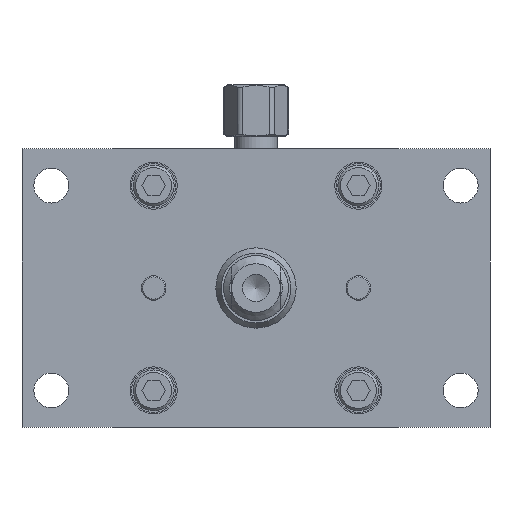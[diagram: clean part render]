
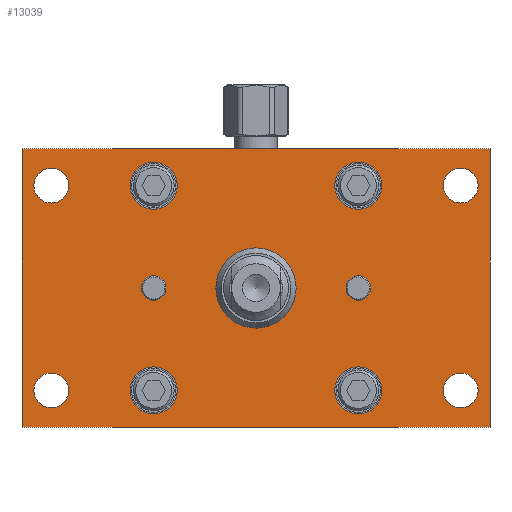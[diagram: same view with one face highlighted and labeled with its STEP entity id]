
A CAD part, front view. The second image highlights one B-rep face of the part: STEP entity #13039.
In plain terms, the highlighted planar face has unit normal (0, -1, 0) as drawn and (0, 0, -1) by its records, which use the part's own axes.
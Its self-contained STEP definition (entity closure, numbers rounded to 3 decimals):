
#308=FACE_BOUND('',#5404,.T.);
#309=FACE_BOUND('',#5405,.T.);
#310=FACE_BOUND('',#5406,.T.);
#311=FACE_BOUND('',#5407,.T.);
#312=FACE_BOUND('',#5408,.T.);
#313=FACE_BOUND('',#5409,.T.);
#314=FACE_BOUND('',#5410,.T.);
#315=FACE_BOUND('',#5411,.T.);
#316=FACE_BOUND('',#5412,.T.);
#317=FACE_BOUND('',#5413,.T.);
#318=FACE_BOUND('',#5414,.T.);
#1177=PLANE('',#14562);
#2305=LINE('',#22049,#3517);
#2308=LINE('',#22054,#3520);
#2310=LINE('',#22058,#3522);
#2312=LINE('',#22061,#3524);
#3517=VECTOR('',#18120,10.);
#3520=VECTOR('',#18125,10.);
#3522=VECTOR('',#18129,10.);
#3524=VECTOR('',#18133,10.);
#4504=FACE_OUTER_BOUND('',#5403,.T.);
#5403=EDGE_LOOP('',(#11619,#11620,#11621,#11622));
#5404=EDGE_LOOP('',(#11623));
#5405=EDGE_LOOP('',(#11624,#11625));
#5406=EDGE_LOOP('',(#11626,#11627));
#5407=EDGE_LOOP('',(#11628,#11629));
#5408=EDGE_LOOP('',(#11630,#11631));
#5409=EDGE_LOOP('',(#11632,#11633));
#5410=EDGE_LOOP('',(#11634,#11635));
#5411=EDGE_LOOP('',(#11636,#11637));
#5412=EDGE_LOOP('',(#11638,#11639));
#5413=EDGE_LOOP('',(#11640,#11641));
#5414=EDGE_LOOP('',(#11642,#11643));
#5731=CIRCLE('',#14452,9.804);
#5768=CIRCLE('',#14503,3.);
#5769=CIRCLE('',#14504,3.);
#5770=CIRCLE('',#14506,3.);
#5771=CIRCLE('',#14507,3.);
#5772=CIRCLE('',#14509,4.25);
#5773=CIRCLE('',#14510,4.25);
#5774=CIRCLE('',#14512,4.25);
#5775=CIRCLE('',#14513,4.25);
#5776=CIRCLE('',#14515,4.25);
#5777=CIRCLE('',#14516,4.25);
#5778=CIRCLE('',#14518,4.25);
#5779=CIRCLE('',#14519,4.25);
#5785=CIRCLE('',#14530,5.75);
#5786=CIRCLE('',#14531,5.75);
#5790=CIRCLE('',#14538,5.75);
#5791=CIRCLE('',#14539,5.75);
#5795=CIRCLE('',#14546,5.75);
#5796=CIRCLE('',#14547,5.75);
#5800=CIRCLE('',#14554,5.75);
#5801=CIRCLE('',#14555,5.75);
#6652=VERTEX_POINT('',#21842);
#6691=VERTEX_POINT('',#21942);
#6692=VERTEX_POINT('',#21943);
#6693=VERTEX_POINT('',#21948);
#6694=VERTEX_POINT('',#21949);
#6695=VERTEX_POINT('',#21954);
#6696=VERTEX_POINT('',#21955);
#6697=VERTEX_POINT('',#21960);
#6698=VERTEX_POINT('',#21961);
#6699=VERTEX_POINT('',#21966);
#6700=VERTEX_POINT('',#21967);
#6701=VERTEX_POINT('',#21972);
#6702=VERTEX_POINT('',#21973);
#6708=VERTEX_POINT('',#21994);
#6709=VERTEX_POINT('',#21995);
#6713=VERTEX_POINT('',#22009);
#6714=VERTEX_POINT('',#22010);
#6718=VERTEX_POINT('',#22024);
#6719=VERTEX_POINT('',#22025);
#6723=VERTEX_POINT('',#22039);
#6724=VERTEX_POINT('',#22040);
#6725=VERTEX_POINT('',#22047);
#6726=VERTEX_POINT('',#22048);
#6727=VERTEX_POINT('',#22053);
#6728=VERTEX_POINT('',#22057);
#8315=EDGE_CURVE('',#6652,#6652,#5731,.T.);
#8362=EDGE_CURVE('',#6691,#6692,#5768,.T.);
#8363=EDGE_CURVE('',#6692,#6691,#5769,.T.);
#8365=EDGE_CURVE('',#6693,#6694,#5770,.T.);
#8366=EDGE_CURVE('',#6694,#6693,#5771,.T.);
#8368=EDGE_CURVE('',#6695,#6696,#5772,.T.);
#8369=EDGE_CURVE('',#6696,#6695,#5773,.T.);
#8371=EDGE_CURVE('',#6697,#6698,#5774,.T.);
#8372=EDGE_CURVE('',#6698,#6697,#5775,.T.);
#8374=EDGE_CURVE('',#6699,#6700,#5776,.T.);
#8375=EDGE_CURVE('',#6700,#6699,#5777,.T.);
#8377=EDGE_CURVE('',#6701,#6702,#5778,.T.);
#8378=EDGE_CURVE('',#6702,#6701,#5779,.T.);
#8387=EDGE_CURVE('',#6708,#6709,#5785,.T.);
#8388=EDGE_CURVE('',#6709,#6708,#5786,.T.);
#8394=EDGE_CURVE('',#6713,#6714,#5790,.T.);
#8395=EDGE_CURVE('',#6714,#6713,#5791,.T.);
#8401=EDGE_CURVE('',#6718,#6719,#5795,.T.);
#8402=EDGE_CURVE('',#6719,#6718,#5796,.T.);
#8408=EDGE_CURVE('',#6723,#6724,#5800,.T.);
#8409=EDGE_CURVE('',#6724,#6723,#5801,.T.);
#8412=EDGE_CURVE('',#6725,#6726,#2305,.T.);
#8415=EDGE_CURVE('',#6727,#6725,#2308,.T.);
#8417=EDGE_CURVE('',#6728,#6727,#2310,.T.);
#8419=EDGE_CURVE('',#6726,#6728,#2312,.T.);
#11619=ORIENTED_EDGE('',*,*,#8419,.F.);
#11620=ORIENTED_EDGE('',*,*,#8412,.F.);
#11621=ORIENTED_EDGE('',*,*,#8415,.F.);
#11622=ORIENTED_EDGE('',*,*,#8417,.F.);
#11623=ORIENTED_EDGE('',*,*,#8315,.T.);
#11624=ORIENTED_EDGE('',*,*,#8362,.T.);
#11625=ORIENTED_EDGE('',*,*,#8363,.T.);
#11626=ORIENTED_EDGE('',*,*,#8365,.T.);
#11627=ORIENTED_EDGE('',*,*,#8366,.T.);
#11628=ORIENTED_EDGE('',*,*,#8368,.T.);
#11629=ORIENTED_EDGE('',*,*,#8369,.T.);
#11630=ORIENTED_EDGE('',*,*,#8371,.T.);
#11631=ORIENTED_EDGE('',*,*,#8372,.T.);
#11632=ORIENTED_EDGE('',*,*,#8374,.T.);
#11633=ORIENTED_EDGE('',*,*,#8375,.T.);
#11634=ORIENTED_EDGE('',*,*,#8377,.T.);
#11635=ORIENTED_EDGE('',*,*,#8378,.T.);
#11636=ORIENTED_EDGE('',*,*,#8387,.T.);
#11637=ORIENTED_EDGE('',*,*,#8388,.T.);
#11638=ORIENTED_EDGE('',*,*,#8394,.T.);
#11639=ORIENTED_EDGE('',*,*,#8395,.T.);
#11640=ORIENTED_EDGE('',*,*,#8401,.T.);
#11641=ORIENTED_EDGE('',*,*,#8402,.T.);
#11642=ORIENTED_EDGE('',*,*,#8408,.T.);
#11643=ORIENTED_EDGE('',*,*,#8409,.T.);
#13039=ADVANCED_FACE('',(#4504,#308,#309,#310,#311,#312,#313,#314,#315,
#316,#317,#318),#1177,.F.);
#14452=AXIS2_PLACEMENT_3D('',#21843,#17882,#17883);
#14503=AXIS2_PLACEMENT_3D('',#21944,#17994,#17995);
#14504=AXIS2_PLACEMENT_3D('',#21945,#17996,#17997);
#14506=AXIS2_PLACEMENT_3D('',#21950,#18001,#18002);
#14507=AXIS2_PLACEMENT_3D('',#21951,#18003,#18004);
#14509=AXIS2_PLACEMENT_3D('',#21956,#18008,#18009);
#14510=AXIS2_PLACEMENT_3D('',#21957,#18010,#18011);
#14512=AXIS2_PLACEMENT_3D('',#21962,#18015,#18016);
#14513=AXIS2_PLACEMENT_3D('',#21963,#18017,#18018);
#14515=AXIS2_PLACEMENT_3D('',#21968,#18022,#18023);
#14516=AXIS2_PLACEMENT_3D('',#21969,#18024,#18025);
#14518=AXIS2_PLACEMENT_3D('',#21974,#18029,#18030);
#14519=AXIS2_PLACEMENT_3D('',#21975,#18031,#18032);
#14530=AXIS2_PLACEMENT_3D('',#21996,#18056,#18057);
#14531=AXIS2_PLACEMENT_3D('',#21997,#18058,#18059);
#14538=AXIS2_PLACEMENT_3D('',#22011,#18074,#18075);
#14539=AXIS2_PLACEMENT_3D('',#22012,#18076,#18077);
#14546=AXIS2_PLACEMENT_3D('',#22026,#18092,#18093);
#14547=AXIS2_PLACEMENT_3D('',#22027,#18094,#18095);
#14554=AXIS2_PLACEMENT_3D('',#22041,#18110,#18111);
#14555=AXIS2_PLACEMENT_3D('',#22042,#18112,#18113);
#14562=AXIS2_PLACEMENT_3D('',#22063,#18136,#18137);
#17882=DIRECTION('center_axis',(0.,0.,1.));
#17883=DIRECTION('ref_axis',(1.,0.,0.));
#17994=DIRECTION('center_axis',(0.,0.,1.));
#17995=DIRECTION('ref_axis',(-1.,0.,0.));
#17996=DIRECTION('center_axis',(0.,0.,1.));
#17997=DIRECTION('ref_axis',(-1.,0.,0.));
#18001=DIRECTION('center_axis',(0.,0.,1.));
#18002=DIRECTION('ref_axis',(-1.,0.,0.));
#18003=DIRECTION('center_axis',(0.,0.,1.));
#18004=DIRECTION('ref_axis',(-1.,0.,0.));
#18008=DIRECTION('center_axis',(0.,0.,1.));
#18009=DIRECTION('ref_axis',(-1.,0.,0.));
#18010=DIRECTION('center_axis',(0.,0.,1.));
#18011=DIRECTION('ref_axis',(-1.,0.,0.));
#18015=DIRECTION('center_axis',(0.,0.,1.));
#18016=DIRECTION('ref_axis',(-1.,0.,0.));
#18017=DIRECTION('center_axis',(0.,0.,1.));
#18018=DIRECTION('ref_axis',(-1.,0.,0.));
#18022=DIRECTION('center_axis',(0.,0.,1.));
#18023=DIRECTION('ref_axis',(-1.,0.,0.));
#18024=DIRECTION('center_axis',(0.,0.,1.));
#18025=DIRECTION('ref_axis',(-1.,0.,0.));
#18029=DIRECTION('center_axis',(0.,0.,1.));
#18030=DIRECTION('ref_axis',(-1.,0.,0.));
#18031=DIRECTION('center_axis',(0.,0.,1.));
#18032=DIRECTION('ref_axis',(-1.,0.,0.));
#18056=DIRECTION('center_axis',(0.,0.,1.));
#18057=DIRECTION('ref_axis',(-1.,0.,0.));
#18058=DIRECTION('center_axis',(0.,0.,1.));
#18059=DIRECTION('ref_axis',(-1.,0.,0.));
#18074=DIRECTION('center_axis',(0.,0.,1.));
#18075=DIRECTION('ref_axis',(-1.,0.,0.));
#18076=DIRECTION('center_axis',(0.,0.,1.));
#18077=DIRECTION('ref_axis',(-1.,0.,0.));
#18092=DIRECTION('center_axis',(0.,0.,1.));
#18093=DIRECTION('ref_axis',(-1.,0.,0.));
#18094=DIRECTION('center_axis',(0.,0.,1.));
#18095=DIRECTION('ref_axis',(-1.,0.,0.));
#18110=DIRECTION('center_axis',(0.,0.,1.));
#18111=DIRECTION('ref_axis',(-1.,0.,0.));
#18112=DIRECTION('center_axis',(0.,0.,1.));
#18113=DIRECTION('ref_axis',(-1.,0.,0.));
#18120=DIRECTION('',(-1.,0.,0.));
#18125=DIRECTION('',(0.,1.,0.));
#18129=DIRECTION('',(1.,0.,0.));
#18133=DIRECTION('',(0.,-1.,0.));
#18136=DIRECTION('center_axis',(0.,0.,1.));
#18137=DIRECTION('ref_axis',(1.,0.,0.));
#21842=CARTESIAN_POINT('',(-9.804,0.,0.));
#21843=CARTESIAN_POINT('Origin',(0.,0.,0.));
#21942=CARTESIAN_POINT('',(-28.,0.,0.));
#21943=CARTESIAN_POINT('',(-22.,0.,0.));
#21944=CARTESIAN_POINT('Origin',(-25.,0.,0.));
#21945=CARTESIAN_POINT('Origin',(-25.,0.,0.));
#21948=CARTESIAN_POINT('',(22.,0.,0.));
#21949=CARTESIAN_POINT('',(28.,0.,0.));
#21950=CARTESIAN_POINT('Origin',(25.,0.,0.));
#21951=CARTESIAN_POINT('Origin',(25.,0.,0.));
#21954=CARTESIAN_POINT('',(45.75,25.,0.));
#21955=CARTESIAN_POINT('',(54.25,25.,0.));
#21956=CARTESIAN_POINT('Origin',(50.,25.,0.));
#21957=CARTESIAN_POINT('Origin',(50.,25.,0.));
#21960=CARTESIAN_POINT('',(-54.25,-25.,0.));
#21961=CARTESIAN_POINT('',(-45.75,-25.,0.));
#21962=CARTESIAN_POINT('Origin',(-50.,-25.,0.));
#21963=CARTESIAN_POINT('Origin',(-50.,-25.,0.));
#21966=CARTESIAN_POINT('',(-54.25,25.,0.));
#21967=CARTESIAN_POINT('',(-45.75,25.,0.));
#21968=CARTESIAN_POINT('Origin',(-50.,25.,0.));
#21969=CARTESIAN_POINT('Origin',(-50.,25.,0.));
#21972=CARTESIAN_POINT('',(45.75,-25.,0.));
#21973=CARTESIAN_POINT('',(54.25,-25.,0.));
#21974=CARTESIAN_POINT('Origin',(50.,-25.,0.));
#21975=CARTESIAN_POINT('Origin',(50.,-25.,0.));
#21994=CARTESIAN_POINT('',(19.25,25.,0.));
#21995=CARTESIAN_POINT('',(30.75,25.,0.));
#21996=CARTESIAN_POINT('Origin',(25.,25.,0.));
#21997=CARTESIAN_POINT('Origin',(25.,25.,0.));
#22009=CARTESIAN_POINT('',(-30.75,-25.,0.));
#22010=CARTESIAN_POINT('',(-19.25,-25.,0.));
#22011=CARTESIAN_POINT('Origin',(-25.,-25.,0.));
#22012=CARTESIAN_POINT('Origin',(-25.,-25.,0.));
#22024=CARTESIAN_POINT('',(19.25,-25.,0.));
#22025=CARTESIAN_POINT('',(30.75,-25.,0.));
#22026=CARTESIAN_POINT('Origin',(25.,-25.,0.));
#22027=CARTESIAN_POINT('Origin',(25.,-25.,0.));
#22039=CARTESIAN_POINT('',(-30.75,25.,0.));
#22040=CARTESIAN_POINT('',(-19.25,25.,0.));
#22041=CARTESIAN_POINT('Origin',(-25.,25.,0.));
#22042=CARTESIAN_POINT('Origin',(-25.,25.,0.));
#22047=CARTESIAN_POINT('',(57.15,34.,0.));
#22048=CARTESIAN_POINT('',(-57.15,34.,0.));
#22049=CARTESIAN_POINT('',(57.15,34.,0.));
#22053=CARTESIAN_POINT('',(57.15,-34.,0.));
#22054=CARTESIAN_POINT('',(57.15,-34.,0.));
#22057=CARTESIAN_POINT('',(-57.15,-34.,0.));
#22058=CARTESIAN_POINT('',(-57.15,-34.,0.));
#22061=CARTESIAN_POINT('',(-57.15,34.,0.));
#22063=CARTESIAN_POINT('Origin',(0.,0.,
0.));
